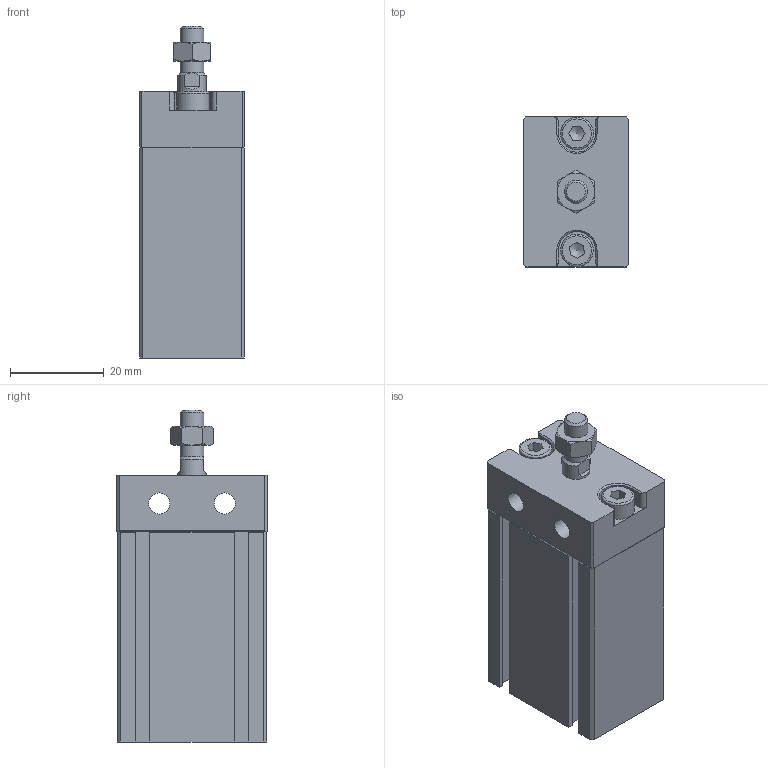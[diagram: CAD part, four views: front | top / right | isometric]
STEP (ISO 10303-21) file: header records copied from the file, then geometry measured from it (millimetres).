
FILE_DESCRIPTION((''),'2;1');
FILE_NAME('I:\3D電子目錄\氣缸\ND\ND\ND16-B\ND16x20-B.stp','2007-07-23T19:21:18',('Administrator'),(''),'Autodesk Inventor 11','Autodesk Inventor 11','');
FILE_SCHEMA(('AUTOMOTIVE_DESIGN { 1 0 10303 214 1 1 1 1 }'));
Length unit declared in the file: millimetre
Products named in the file (4): ND16-B; R 形環 18; ISO 4762 M4 x 10
Assembly tree (4 placements, depth 2):
  ND16-B
    ND16-B
    R 形環 18
    ISO 4762 M4 x 10  x2
Bounding box: 22.4 x 32.1 x 71 mm (x, y, z)
Volume: 35223.5 mm3; surface area: 12814.8 mm2
Topology: 5 solids, 5 shells, 190 faces, 450 edges, 285 vertices
Faces by surface type: plane 117, cylinder 28, cone 28, bspline 14, torus 3
Full cylindrical faces by diameter (mm): 1.5 x4, 4 x2, 4.5 x2, 5 x2, 6 x1, 7 x2, 10 x1, 18 x1, 19 x1
Entity records: 5015 total; most frequent: CARTESIAN_POINT 1070, DIRECTION 784, ORIENTED_EDGE 754, EDGE_CURVE 377, AXIS2_PLACEMENT_3D 271, VERTEX_POINT 259, VECTOR 242, LINE 242
